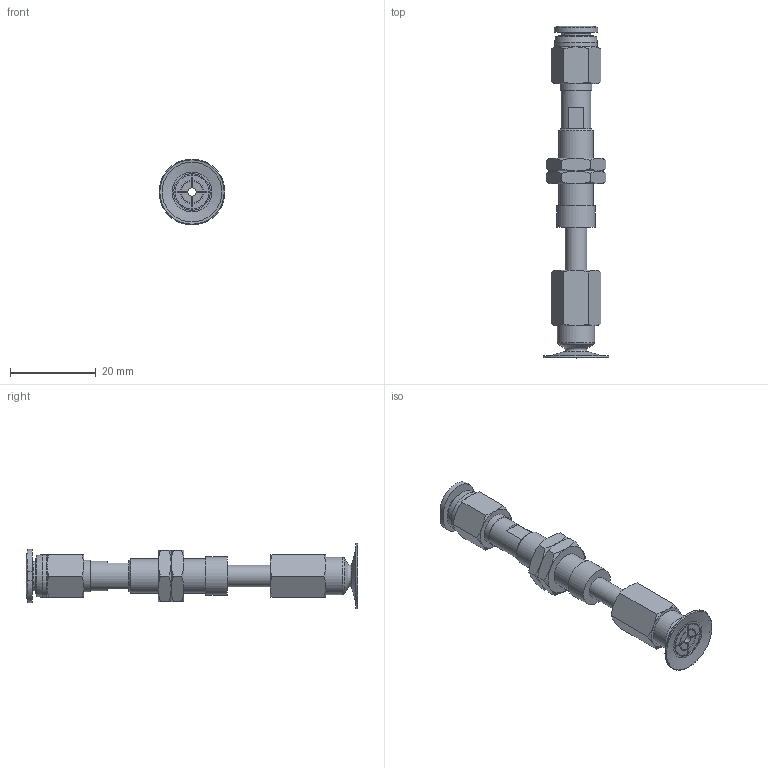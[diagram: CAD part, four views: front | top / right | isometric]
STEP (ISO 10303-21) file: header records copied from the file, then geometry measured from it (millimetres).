
FILE_DESCRIPTION(('STEP AP203'),'1');
FILE_NAME('-O.stp','2025-08-26T08:52:01',(' '),(' '),'Spatial InterOp 3D',' ',' ');
FILE_SCHEMA(('CONFIG_CONTROL_DESIGN'));
Length unit declared in the file: millimetre
Products named in the file (7): BNABPATS-15B-10-※-O; ADAPTER; NAPATS-10A-10--M; NAPATS-10A-10--F; Nut-10A-S; PC-C_06-M5; BPAG-15B-※_3D
Assembly tree (7 placements, depth 2):
  BNABPATS-15B-10-※-O
    ADAPTER
    NAPATS-10A-10--M
    NAPATS-10A-10--F
    Nut-10A-S  x2
    PC-C_06-M5
    BPAG-15B-※_3D
Bounding box: 15.4 x 77.48 x 15.4 mm (x, y, z)
Volume: 3520.8 mm3; surface area: 5414.2 mm2
Topology: 6 solids, 9 shells, 206 faces, 447 edges, 271 vertices
Faces by surface type: plane 78, cone 71, cylinder 38, torus 12, bspline 4, revolution 3
Full cylindrical faces by diameter (mm): 2 x3, 4 x4, 4.134 x1, 5 x3, 6 x2, 7 x2, 7.188 x2, 7.4 x1, 8 x1, 8.2 x1, 8.5 x1, 8.7 x1, 9 x1, 10 x1
Entity records: 5440 total; most frequent: CARTESIAN_POINT 1473, DIRECTION 755, ORIENTED_EDGE 668, EDGE_CURVE 336, AXIS2_PLACEMENT_3D 326, EDGE_LOOP 258, VERTEX_POINT 230, FACE_OUTER_BOUND 158
